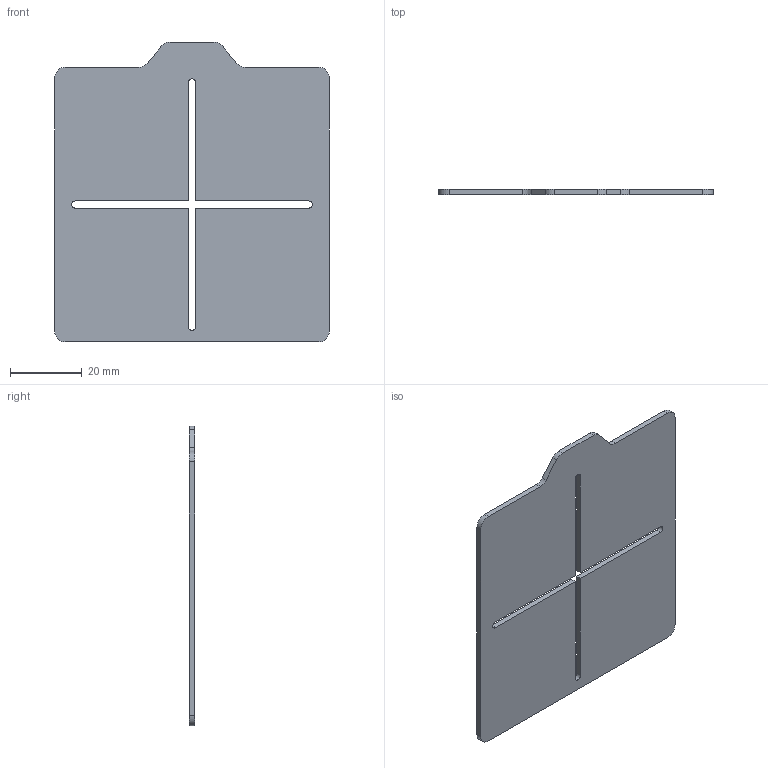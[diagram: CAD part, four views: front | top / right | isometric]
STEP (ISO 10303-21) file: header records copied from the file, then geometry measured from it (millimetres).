
FILE_DESCRIPTION(/* description */ (''),/* implementation_level */ '2;1');
FILE_NAME(/* name */ 'Quad Planner.step',/* time_stamp */ '2025-08-10T15:21:55+08:00',/* author */ (''),/* organization */ (''),/* preprocessor_version */ 'ST-DEVELOPER v20.1',/* originating_system */ 'Autodesk Translation Framework v14.10.0.0',/* authorisation */ '');
FILE_SCHEMA (('AUTOMOTIVE_DESIGN { 1 0 10303 214 3 1 1 }'));
Length unit declared in the file: millimetre
Products named in the file (1): Sticky note holder with stencils
Bounding box: 76.5 x 1.5 x 83.5 mm (x, y, z)
Volume: 8583.5 mm3; surface area: 12310.6 mm2
Topology: 1 solids, 1 shells, 30 faces, 84 edges, 56 vertices
Faces by surface type: plane 18, cylinder 12
Entity records: 1023 total; most frequent: CARTESIAN_POINT 171, DIRECTION 170, ORIENTED_EDGE 168, EDGE_CURVE 84, LINE 60, VECTOR 60, VERTEX_POINT 56, AXIS2_PLACEMENT_3D 55
